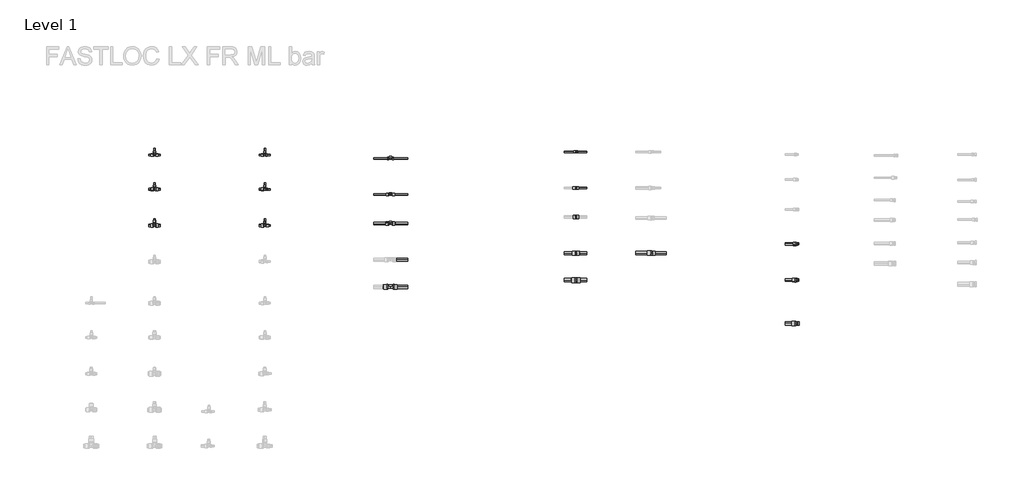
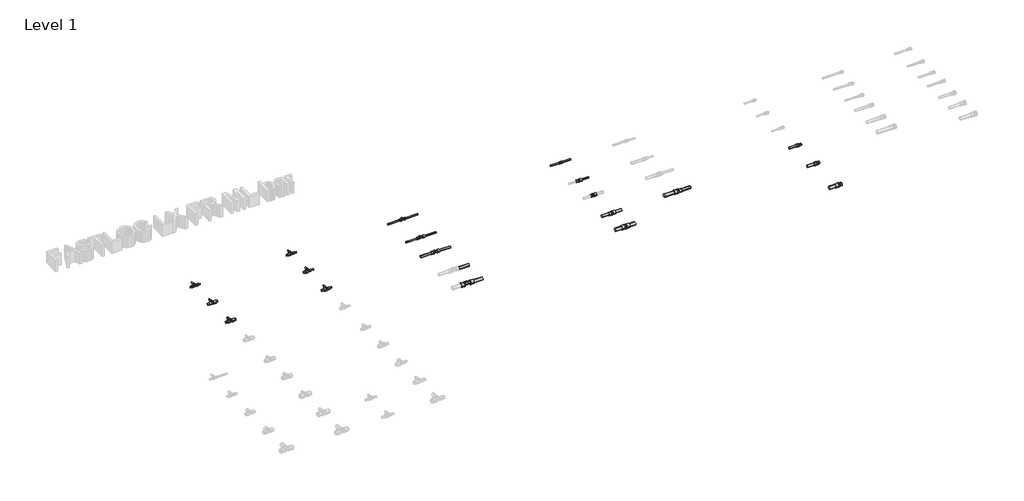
# One storey, part 10 of 78: 38 pipe segments, 19 pipe fittings.
"""IFC4 building model written with IfcOpenShell, lengths in millimetres."""

from ifc_helpers import new_model, si_unit, point, frame, frame_2d, origin, place, context, project, spatial, circle_curve, trimmed, segment, composite_curve, outline, extrude, transform, mapped, element, save
from components import pipe_fitting_027be69e, pipe_fitting_14a26f43, pipe_fitting_5ae7c970, pipe_fitting_e97a97d3, pipe_fitting_d9a56b63, pipe_fitting_8fb58d5f, pipe_fitting_db17a53a, pipe_fitting_3bea6388, pipe_fitting_d92d4423, pipe_fitting_47d0521d, pipe_fitting_29c4d4eb, pipe_fitting_00caae07, pipe_fitting_1d22680d, pipe_fitting_5e3c5755, pipe_fitting_f5731c1c, pipe_fitting_607ccf76, pipe_fitting_a999c26e, pipe_fitting_b01d00d0, pipe_fitting_e8fea69e

model = new_model("IFC4")

# Units and contexts
model_context = context("Model", 3, world=origin())
ifc_project = project(units=[si_unit("LENGTHUNIT", "METRE", prefix="MILLI")], contexts=[model_context])

# Site, building, storey
site = spatial("IfcSite", under=ifc_project)
building = spatial("IfcBuilding", under=site)
storey = spatial("IfcBuildingStorey", under=building, Name="Level 1", Elevation=0.0)

# Pipe fittings
placement = place(None, origin())
pipe_fitting_shape = pipe_fitting_027be69e(model_context)
element("IfcPipeFitting", 1, ObjectType="FASTLOC_Coupling equal LX : FSL C LX FR", at=placement, inside=storey, context=model_context, shape_type="MappedRepresentation", body=[
    mapped(pipe_fitting_shape, transform((5088.3790161, -27105.8821283, 0.0), x_axis=(1.0, 0.0, 0.0), y_axis=(0.0, 1.0, 0.0), z_axis=(0.0, 0.0, 1.0))),
])
pipe_fitting_2_shape = pipe_fitting_14a26f43(model_context)
element("IfcPipeFitting", 2, ObjectType="FASTLOC_Coupling reduced LX : FSL C LX FR", at=placement, inside=storey, context=model_context, shape_type="MappedRepresentation", body=[
    mapped(pipe_fitting_2_shape, transform((5926.6928556, -28225.8821283, 0.0), x_axis=(1.0, 0.0, 0.0), y_axis=(0.0, 1.0, 0.0), z_axis=(0.0, 0.0, 1.0))),
])
pipe_fitting_3_shape = pipe_fitting_5ae7c970(model_context)
element("IfcPipeFitting", 3, ObjectType="FASTLOC_T-piece_LX : FSL T-Piece LX FR", at=placement, inside=storey, context=model_context, shape_type="MappedRepresentation", body=[
    mapped(pipe_fitting_3_shape, transform((426.7498072, -27140.2405791, 0.0), x_axis=(1.0, 0.0, 0.0), y_axis=(0.0, 1.0, 0.0), z_axis=(0.0, 0.0, 1.0))),
])
pipe_fitting_4_shape = pipe_fitting_e97a97d3(model_context)
element("IfcPipeFitting", 4, ObjectType="FASTLOC_T-piece_LX : FSL T-Piece LX FR", at=placement, inside=storey, context=model_context, shape_type="MappedRepresentation", body=[
    mapped(pipe_fitting_4_shape, transform((426.7498072, -27520.2405791, 0.0), x_axis=(1.0, 0.0, 0.0), y_axis=(0.0, 1.0, 0.0), z_axis=(0.0, 0.0, 1.0))),
])
pipe_fitting_5_shape = pipe_fitting_d9a56b63(model_context)
element("IfcPipeFitting", 5, ObjectType="FASTLOC_T-piece_LX : FSL T-Piece LX FR", at=placement, inside=storey, context=model_context, shape_type="MappedRepresentation", body=[
    mapped(pipe_fitting_5_shape, transform((426.7498072, -27920.2405791, 0.0), x_axis=(1.0, 0.0, 0.0), y_axis=(0.0, 1.0, 0.0), z_axis=(0.0, 0.0, 1.0))),
])
pipe_fitting_6_shape = pipe_fitting_8fb58d5f(model_context)
element("IfcPipeFitting", 6, ObjectType="FASTLOC_T-piece_LX : FSL T-Piece LX FR", at=placement, inside=storey, context=model_context, shape_type="MappedRepresentation", body=[
    mapped(pipe_fitting_6_shape, transform((1646.7498072, -27140.2405791, 0.0), x_axis=(1.0, 0.0, 0.0), y_axis=(0.0, 1.0, 0.0), z_axis=(0.0, 0.0, 1.0))),
])
pipe_fitting_7_shape = pipe_fitting_db17a53a(model_context)
element("IfcPipeFitting", 7, ObjectType="FASTLOC_T-piece_LX : FSL T-Piece LX FR", at=placement, inside=storey, context=model_context, shape_type="MappedRepresentation", body=[
    mapped(pipe_fitting_7_shape, transform((1646.7498072, -27520.2405791, 0.0), x_axis=(1.0, 0.0, 0.0), y_axis=(0.0, 1.0, 0.0), z_axis=(0.0, 0.0, 1.0))),
])
pipe_fitting_8_shape = pipe_fitting_3bea6388(model_context)
element("IfcPipeFitting", 8, ObjectType="FASTLOC_T-piece_LX : FSL T-Piece LX FR", at=placement, inside=storey, context=model_context, shape_type="MappedRepresentation", body=[
    mapped(pipe_fitting_8_shape, transform((1646.7498072, -27920.2405791, 0.0), x_axis=(1.0, 0.0, 0.0), y_axis=(0.0, 1.0, 0.0), z_axis=(0.0, 0.0, 1.0))),
])
pipe_fitting_9_shape = pipe_fitting_d92d4423(model_context)
element("IfcPipeFitting", 9, ObjectType="FASTLOC_T-piece internal thread LX : FSL T thread LX FR", at=placement, inside=storey, context=model_context, shape_type="MappedRepresentation", body=[
    mapped(pipe_fitting_9_shape, transform((3036.609585, -27179.8272875, 0.0), x_axis=(1.0, 0.0, 0.0), y_axis=(0.0, 1.0, 0.0), z_axis=(0.0, 0.0, 1.0))),
])
pipe_fitting_10_shape = pipe_fitting_47d0521d(model_context)
element("IfcPipeFitting", 10, ObjectType="FASTLOC_T-piece internal thread LX : FSL T thread LX FR", at=placement, inside=storey, context=model_context, shape_type="MappedRepresentation", body=[
    mapped(pipe_fitting_10_shape, transform((3036.609585, -27579.8272875, 0.0), x_axis=(1.0, 0.0, 0.0), y_axis=(0.0, 1.0, 0.0), z_axis=(0.0, 0.0, 1.0))),
])
pipe_fitting_11_shape = pipe_fitting_29c4d4eb(model_context)
element("IfcPipeFitting", 11, ObjectType="FASTLOC_T-piece internal thread LX : FSL T thread LX FR", at=placement, inside=storey, context=model_context, shape_type="MappedRepresentation", body=[
    mapped(pipe_fitting_11_shape, transform((3036.609585, -27899.8272875, 0.0), x_axis=(1.0, 0.0, 0.0), y_axis=(0.0, 1.0, 0.0), z_axis=(0.0, 0.0, 1.0))),
])
pipe_fitting_12_shape = pipe_fitting_00caae07(model_context)
element("IfcPipeFitting", 12, ObjectType="FASTLOC_T-piece internal thread LX : FSL T thread LX FR", at=placement, inside=storey, context=model_context, shape_type="MappedRepresentation", body=[
    mapped(pipe_fitting_12_shape, transform((3036.609585, -28599.8272875, 0.0), x_axis=(1.0, 0.0, 0.0), y_axis=(0.0, 1.0, 0.0), z_axis=(0.0, 0.0, 1.0))),
])
pipe_fitting_13_shape = pipe_fitting_1d22680d(model_context)
element("IfcPipeFitting", 13, ObjectType="FASTLOC_Coupling equal LX : FSL C LX FR", at=placement, inside=storey, context=model_context, shape_type="MappedRepresentation", body=[
    mapped(pipe_fitting_13_shape, transform((5088.3790161, -27505.8821283, 0.0), x_axis=(1.0, 0.0, 0.0), y_axis=(0.0, 1.0, 0.0), z_axis=(0.0, 0.0, 1.0))),
])
pipe_fitting_14_shape = pipe_fitting_5e3c5755(model_context)
element("IfcPipeFitting", 14, ObjectType="FASTLOC_Coupling equal LX : FSL C LX FR", at=placement, inside=storey, context=model_context, shape_type="MappedRepresentation", body=[
    mapped(pipe_fitting_14_shape, transform((5088.3790161, -27825.8821283, 0.0), x_axis=(1.0, 0.0, 0.0), y_axis=(0.0, 1.0, 0.0), z_axis=(0.0, 0.0, 1.0))),
])
pipe_fitting_15_shape = pipe_fitting_f5731c1c(model_context)
element("IfcPipeFitting", 15, ObjectType="FASTLOC_Coupling equal LX : FSL C LX FR", at=placement, inside=storey, context=model_context, shape_type="MappedRepresentation", body=[
    mapped(pipe_fitting_15_shape, transform((5088.3790161, -28225.8821283, 0.0), x_axis=(1.0, 0.0, 0.0), y_axis=(0.0, 1.0, 0.0), z_axis=(0.0, 0.0, 1.0))),
])
pipe_fitting_16_shape = pipe_fitting_607ccf76(model_context)
element("IfcPipeFitting", 16, ObjectType="FASTLOC_Coupling equal LX : FSL C LX FR", at=placement, inside=storey, context=model_context, shape_type="MappedRepresentation", body=[
    mapped(pipe_fitting_16_shape, transform((5088.3790161, -28525.8821283, 0.0), x_axis=(1.0, 0.0, 0.0), y_axis=(0.0, 1.0, 0.0), z_axis=(0.0, 0.0, 1.0))),
])
pipe_fitting_17_shape = pipe_fitting_a999c26e(model_context)
element("IfcPipeFitting", 17, ObjectType="FASTLOC_Adapter_LX, with external thread : FSL A C external FR", at=placement, inside=storey, context=model_context, shape_type="MappedRepresentation", body=[
    mapped(pipe_fitting_17_shape, transform((7526.8953131, -28124.2068389, 0.0), x_axis=(1.0, 0.0, 0.0), y_axis=(0.0, 1.0, 0.0), z_axis=(0.0, 0.0, 1.0))),
])
pipe_fitting_18_shape = pipe_fitting_b01d00d0(model_context)
element("IfcPipeFitting", 18, ObjectType="FASTLOC_Adapter_LX, with external thread : FSL A C external FR", at=placement, inside=storey, context=model_context, shape_type="MappedRepresentation", body=[
    mapped(pipe_fitting_18_shape, transform((7526.8953131, -28524.2068389, 0.0), x_axis=(1.0, 0.0, 0.0), y_axis=(0.0, 1.0, 0.0), z_axis=(0.0, 0.0, 1.0))),
])
pipe_fitting_19_shape = pipe_fitting_e8fea69e(model_context)
element("IfcPipeFitting", 19, ObjectType="FASTLOC_Adapter_LX, with external thread : FSL A C external FR", at=placement, inside=storey, context=model_context, shape_type="MappedRepresentation", body=[
    mapped(pipe_fitting_19_shape, transform((7526.8953131, -29004.2068389, 0.0), x_axis=(1.0, 0.0, 0.0), y_axis=(0.0, 1.0, 0.0), z_axis=(0.0, 0.0, 1.0))),
])

# Pipe segments
element("IfcPipeSegment", 20, ObjectType="FASTLOC LX ML FR bar", at=placement, inside=storey, context=model_context, shape_type="SweptSolid", body=[
    extrude(outline(composite_curve([segment(trimmed(circle_curve(frame_2d((-27140.2405791, 0.0)), 8.0), [point((-27148.2405791, 0.0))], [point((-27140.2405791, 8.0))], False, "CARTESIAN"), True, "CONTINUOUS"), segment(trimmed(circle_curve(frame_2d((-27140.2405791, 0.0)), 8.0), [point((-27140.2405791, 8.0))], [point((-27132.2405791, 0.0))], False, "CARTESIAN"), True, "CONTINUOUS"), segment(trimmed(circle_curve(frame_2d((-27140.2405791, 0.0)), 8.0), [point((-27132.2405791, 0.0))], [point((-27140.2405791, -8.0))], False, "CARTESIAN"), True, "CONTINUOUS"), segment(trimmed(circle_curve(frame_2d((-27140.2405791, 0.0)), 8.0), [point((-27140.2405791, -8.0))], [point((-27148.2405791, 0.0))], False, "CARTESIAN"), True, "CONTINUOUS")], self_intersect=False)), frame((442.0498072, 0.0, 0.0), z_axis=(1.0, 0.0, 0.0), x_axis=(0.0, 1.0, 0.0)), (0.0, 0.0, 1.0), 46.7),
])
element("IfcPipeSegment", 21, ObjectType="FASTLOC LX ML FR bar", at=placement, inside=storey, context=model_context, shape_type="SweptSolid", body=[
    extrude(outline(composite_curve([segment(trimmed(circle_curve(frame_2d((-27140.2405791, 0.0)), 8.0), [point((-27132.2405791, 0.0))], [point((-27140.2405791, -8.0))], False, "CARTESIAN"), True, "CONTINUOUS"), segment(trimmed(circle_curve(frame_2d((-27140.2405791, 0.0)), 8.0), [point((-27140.2405791, -8.0))], [point((-27148.2405791, 0.0))], False, "CARTESIAN"), True, "CONTINUOUS"), segment(trimmed(circle_curve(frame_2d((-27140.2405791, 0.0)), 8.0), [point((-27148.2405791, 0.0))], [point((-27140.2405791, 8.0))], False, "CARTESIAN"), True, "CONTINUOUS"), segment(trimmed(circle_curve(frame_2d((-27140.2405791, 0.0)), 8.0), [point((-27140.2405791, 8.0))], [point((-27132.2405791, 0.0))], False, "CARTESIAN"), True, "CONTINUOUS")], self_intersect=False)), frame((364.7498072, 0.0, 0.0), z_axis=(1.0, 0.0, 0.0), x_axis=(0.0, 1.0, 0.0)), (0.0, 0.0, 1.0), 46.7),
])
element("IfcPipeSegment", 22, ObjectType="FASTLOC LX ML FR bar", at=placement, inside=storey, context=model_context, shape_type="SweptSolid", body=[
    extrude(outline(composite_curve([segment(trimmed(circle_curve(frame_2d((0.0, 426.7498072)), 8.0), [point((0.0, 434.7498072))], [point((8.0, 426.7498072))], False, "CARTESIAN"), True, "CONTINUOUS"), segment(trimmed(circle_curve(frame_2d((0.0, 426.7498072)), 8.0), [point((8.0, 426.7498072))], [point((0.0, 418.7498072))], False, "CARTESIAN"), True, "CONTINUOUS"), segment(trimmed(circle_curve(frame_2d((0.0, 426.7498072)), 8.0), [point((0.0, 418.7498072))], [point((-8.0, 426.7498072))], False, "CARTESIAN"), True, "CONTINUOUS"), segment(trimmed(circle_curve(frame_2d((0.0, 426.7498072)), 8.0), [point((-8.0, 426.7498072))], [point((0.0, 434.7498072))], False, "CARTESIAN"), True, "CONTINUOUS")], self_intersect=False)), frame((0.0, -27113.9405791, 0.0), z_axis=(0.0, 1.0, 0.0), x_axis=(0.0, 0.0, 1.0)), (0.0, 0.0, 1.0), 46.0),
])
element("IfcPipeSegment", 23, ObjectType="FASTLOC LX ML FR bar", at=placement, inside=storey, context=model_context, shape_type="SweptSolid", body=[
    extrude(outline(composite_curve([segment(trimmed(circle_curve(frame_2d((-27520.2405791, 0.0)), 12.5), [point((-27532.7405791, 0.0))], [point((-27520.2405791, 12.5))], False, "CARTESIAN"), True, "CONTINUOUS"), segment(trimmed(circle_curve(frame_2d((-27520.2405791, 0.0)), 12.5), [point((-27520.2405791, 12.5))], [point((-27507.7405791, 0.0))], False, "CARTESIAN"), True, "CONTINUOUS"), segment(trimmed(circle_curve(frame_2d((-27520.2405791, 0.0)), 12.5), [point((-27507.7405791, 0.0))], [point((-27520.2405791, -12.5))], False, "CARTESIAN"), True, "CONTINUOUS"), segment(trimmed(circle_curve(frame_2d((-27520.2405791, 0.0)), 12.5), [point((-27520.2405791, -12.5))], [point((-27532.7405791, 0.0))], False, "CARTESIAN"), True, "CONTINUOUS")], self_intersect=False)), frame((442.9498072, 0.0, 0.0), z_axis=(1.0, 0.0, 0.0), x_axis=(0.0, 1.0, 0.0)), (0.0, 0.0, 1.0), 45.8),
])
element("IfcPipeSegment", 24, ObjectType="FASTLOC LX ML FR bar", at=placement, inside=storey, context=model_context, shape_type="SweptSolid", body=[
    extrude(outline(composite_curve([segment(trimmed(circle_curve(frame_2d((-27520.2405791, 0.0)), 12.5), [point((-27507.7405791, 0.0))], [point((-27520.2405791, -12.5))], False, "CARTESIAN"), True, "CONTINUOUS"), segment(trimmed(circle_curve(frame_2d((-27520.2405791, 0.0)), 12.5), [point((-27520.2405791, -12.5))], [point((-27532.7405791, 0.0))], False, "CARTESIAN"), True, "CONTINUOUS"), segment(trimmed(circle_curve(frame_2d((-27520.2405791, 0.0)), 12.5), [point((-27532.7405791, 0.0))], [point((-27520.2405791, 12.5))], False, "CARTESIAN"), True, "CONTINUOUS"), segment(trimmed(circle_curve(frame_2d((-27520.2405791, 0.0)), 12.5), [point((-27520.2405791, 12.5))], [point((-27507.7405791, 0.0))], False, "CARTESIAN"), True, "CONTINUOUS")], self_intersect=False)), frame((364.7498072, 0.0, 0.0), z_axis=(1.0, 0.0, 0.0), x_axis=(0.0, 1.0, 0.0)), (0.0, 0.0, 1.0), 45.8),
])
element("IfcPipeSegment", 25, ObjectType="FASTLOC LX ML FR bar", at=placement, inside=storey, context=model_context, shape_type="SweptSolid", body=[
    extrude(outline(composite_curve([segment(trimmed(circle_curve(frame_2d((0.0, 426.7498072)), 8.0), [point((0.0, 434.7498072))], [point((8.0, 426.7498072))], False, "CARTESIAN"), True, "CONTINUOUS"), segment(trimmed(circle_curve(frame_2d((0.0, 426.7498072)), 8.0), [point((8.0, 426.7498072))], [point((0.0, 418.7498072))], False, "CARTESIAN"), True, "CONTINUOUS"), segment(trimmed(circle_curve(frame_2d((0.0, 426.7498072)), 8.0), [point((0.0, 418.7498072))], [point((-8.0, 426.7498072))], False, "CARTESIAN"), True, "CONTINUOUS"), segment(trimmed(circle_curve(frame_2d((0.0, 426.7498072)), 8.0), [point((-8.0, 426.7498072))], [point((0.0, 434.7498072))], False, "CARTESIAN"), True, "CONTINUOUS")], self_intersect=False)), frame((0.0, -27491.2405791, 0.0), z_axis=(0.0, 1.0, 0.0), x_axis=(0.0, 0.0, 1.0)), (0.0, 0.0, 1.0), 43.3),
])
element("IfcPipeSegment", 26, ObjectType="FASTLOC LX ML FR bar", at=placement, inside=storey, context=model_context, shape_type="SweptSolid", body=[
    extrude(outline(composite_curve([segment(trimmed(circle_curve(frame_2d((-27920.2405791, 0.0)), 12.5), [point((-27932.7405791, 0.0))], [point((-27920.2405791, 12.5))], False, "CARTESIAN"), True, "CONTINUOUS"), segment(trimmed(circle_curve(frame_2d((-27920.2405791, 0.0)), 12.5), [point((-27920.2405791, 12.5))], [point((-27907.7405791, 0.0))], False, "CARTESIAN"), True, "CONTINUOUS"), segment(trimmed(circle_curve(frame_2d((-27920.2405791, 0.0)), 12.5), [point((-27907.7405791, 0.0))], [point((-27920.2405791, -12.5))], False, "CARTESIAN"), True, "CONTINUOUS"), segment(trimmed(circle_curve(frame_2d((-27920.2405791, 0.0)), 12.5), [point((-27920.2405791, -12.5))], [point((-27932.7405791, 0.0))], False, "CARTESIAN"), True, "CONTINUOUS")], self_intersect=False)), frame((444.8498072, 0.0, 0.0), z_axis=(1.0, 0.0, 0.0), x_axis=(0.0, 1.0, 0.0)), (0.0, 0.0, 1.0), 43.9),
])
element("IfcPipeSegment", 27, ObjectType="FASTLOC LX ML FR bar", at=placement, inside=storey, context=model_context, shape_type="SweptSolid", body=[
    extrude(outline(composite_curve([segment(trimmed(circle_curve(frame_2d((-27920.2405791, 0.0)), 12.5), [point((-27907.7405791, 0.0))], [point((-27920.2405791, -12.5))], False, "CARTESIAN"), True, "CONTINUOUS"), segment(trimmed(circle_curve(frame_2d((-27920.2405791, 0.0)), 12.5), [point((-27920.2405791, -12.5))], [point((-27932.7405791, 0.0))], False, "CARTESIAN"), True, "CONTINUOUS"), segment(trimmed(circle_curve(frame_2d((-27920.2405791, 0.0)), 12.5), [point((-27932.7405791, 0.0))], [point((-27920.2405791, 12.5))], False, "CARTESIAN"), True, "CONTINUOUS"), segment(trimmed(circle_curve(frame_2d((-27920.2405791, 0.0)), 12.5), [point((-27920.2405791, 12.5))], [point((-27907.7405791, 0.0))], False, "CARTESIAN"), True, "CONTINUOUS")], self_intersect=False)), frame((364.7498072, 0.0, 0.0), z_axis=(1.0, 0.0, 0.0), x_axis=(0.0, 1.0, 0.0)), (0.0, 0.0, 1.0), 43.9),
])
element("IfcPipeSegment", 28, ObjectType="FASTLOC LX ML FR bar", at=placement, inside=storey, context=model_context, shape_type="SweptSolid", body=[
    extrude(outline(composite_curve([segment(trimmed(circle_curve(frame_2d((0.0, 426.7498072)), 8.0), [point((0.0, 434.7498072))], [point((8.0, 426.7498072))], False, "CARTESIAN"), True, "CONTINUOUS"), segment(trimmed(circle_curve(frame_2d((0.0, 426.7498072)), 8.0), [point((8.0, 426.7498072))], [point((0.0, 418.7498072))], False, "CARTESIAN"), True, "CONTINUOUS"), segment(trimmed(circle_curve(frame_2d((0.0, 426.7498072)), 8.0), [point((0.0, 418.7498072))], [point((-8.0, 426.7498072))], False, "CARTESIAN"), True, "CONTINUOUS"), segment(trimmed(circle_curve(frame_2d((0.0, 426.7498072)), 8.0), [point((-8.0, 426.7498072))], [point((0.0, 434.7498072))], False, "CARTESIAN"), True, "CONTINUOUS")], self_intersect=False)), frame((0.0, -27891.0405791, 0.0), z_axis=(0.0, 1.0, 0.0), x_axis=(0.0, 0.0, 1.0)), (0.0, 0.0, 1.0), 43.1),
])
element("IfcPipeSegment", 29, ObjectType="FASTLOC LX ML FR bar", at=placement, inside=storey, context=model_context, shape_type="SweptSolid", body=[
    extrude(outline(composite_curve([segment(trimmed(circle_curve(frame_2d((-27140.2405791, 0.0)), 8.0), [point((-27148.2405791, 0.0))], [point((-27140.2405791, 8.0))], False, "CARTESIAN"), True, "CONTINUOUS"), segment(trimmed(circle_curve(frame_2d((-27140.2405791, 0.0)), 8.0), [point((-27140.2405791, 8.0))], [point((-27132.2405791, 0.0))], False, "CARTESIAN"), True, "CONTINUOUS"), segment(trimmed(circle_curve(frame_2d((-27140.2405791, 0.0)), 8.0), [point((-27132.2405791, 0.0))], [point((-27140.2405791, -8.0))], False, "CARTESIAN"), True, "CONTINUOUS"), segment(trimmed(circle_curve(frame_2d((-27140.2405791, 0.0)), 8.0), [point((-27140.2405791, -8.0))], [point((-27148.2405791, 0.0))], False, "CARTESIAN"), True, "CONTINUOUS")], self_intersect=False)), frame((1661.8498072, 0.0, 0.0), z_axis=(1.0, 0.0, 0.0), x_axis=(0.0, 1.0, 0.0)), (0.0, 0.0, 1.0), 46.9),
])
element("IfcPipeSegment", 30, ObjectType="FASTLOC LX ML FR bar", at=placement, inside=storey, context=model_context, shape_type="SweptSolid", body=[
    extrude(outline(composite_curve([segment(trimmed(circle_curve(frame_2d((-27140.2405791, 0.0)), 8.0), [point((-27132.2405791, 0.0))], [point((-27140.2405791, -8.0))], False, "CARTESIAN"), True, "CONTINUOUS"), segment(trimmed(circle_curve(frame_2d((-27140.2405791, 0.0)), 8.0), [point((-27140.2405791, -8.0))], [point((-27148.2405791, 0.0))], False, "CARTESIAN"), True, "CONTINUOUS"), segment(trimmed(circle_curve(frame_2d((-27140.2405791, 0.0)), 8.0), [point((-27148.2405791, 0.0))], [point((-27140.2405791, 8.0))], False, "CARTESIAN"), True, "CONTINUOUS"), segment(trimmed(circle_curve(frame_2d((-27140.2405791, 0.0)), 8.0), [point((-27140.2405791, 8.0))], [point((-27132.2405791, 0.0))], False, "CARTESIAN"), True, "CONTINUOUS")], self_intersect=False)), frame((1584.7498072, 0.0, 0.0), z_axis=(1.0, 0.0, 0.0), x_axis=(0.0, 1.0, 0.0)), (0.0, 0.0, 1.0), 46.5),
])
element("IfcPipeSegment", 31, ObjectType="FASTLOC LX ML FR bar", at=placement, inside=storey, context=model_context, shape_type="SweptSolid", body=[
    extrude(outline(composite_curve([segment(trimmed(circle_curve(frame_2d((0.0, 1646.7498072)), 8.0), [point((0.0, 1654.7498072))], [point((8.0, 1646.7498072))], False, "CARTESIAN"), True, "CONTINUOUS"), segment(trimmed(circle_curve(frame_2d((0.0, 1646.7498072)), 8.0), [point((8.0, 1646.7498072))], [point((0.0, 1638.7498072))], False, "CARTESIAN"), True, "CONTINUOUS"), segment(trimmed(circle_curve(frame_2d((0.0, 1646.7498072)), 8.0), [point((0.0, 1638.7498072))], [point((-8.0, 1646.7498072))], False, "CARTESIAN"), True, "CONTINUOUS"), segment(trimmed(circle_curve(frame_2d((0.0, 1646.7498072)), 8.0), [point((-8.0, 1646.7498072))], [point((0.0, 1654.7498072))], False, "CARTESIAN"), True, "CONTINUOUS")], self_intersect=False)), frame((0.0, -27113.8405791, 0.0), z_axis=(0.0, 1.0, 0.0), x_axis=(0.0, 0.0, 1.0)), (0.0, 0.0, 1.0), 45.9),
])
element("IfcPipeSegment", 32, ObjectType="FASTLOC LX ML FR bar", at=placement, inside=storey, context=model_context, shape_type="SweptSolid", body=[
    extrude(outline(composite_curve([segment(trimmed(circle_curve(frame_2d((-27520.2405791, 0.0)), 8.0), [point((-27528.2405791, 0.0))], [point((-27520.2405791, 8.0))], False, "CARTESIAN"), True, "CONTINUOUS"), segment(trimmed(circle_curve(frame_2d((-27520.2405791, 0.0)), 8.0), [point((-27520.2405791, 8.0))], [point((-27512.2405791, 0.0))], False, "CARTESIAN"), True, "CONTINUOUS"), segment(trimmed(circle_curve(frame_2d((-27520.2405791, 0.0)), 8.0), [point((-27512.2405791, 0.0))], [point((-27520.2405791, -8.0))], False, "CARTESIAN"), True, "CONTINUOUS"), segment(trimmed(circle_curve(frame_2d((-27520.2405791, 0.0)), 8.0), [point((-27520.2405791, -8.0))], [point((-27528.2405791, 0.0))], False, "CARTESIAN"), True, "CONTINUOUS")], self_intersect=False)), frame((1661.8498072, 0.0, 0.0), z_axis=(1.0, 0.0, 0.0), x_axis=(0.0, 1.0, 0.0)), (0.0, 0.0, 1.0), 46.9),
])
element("IfcPipeSegment", 33, ObjectType="FASTLOC LX ML FR bar", at=placement, inside=storey, context=model_context, shape_type="SweptSolid", body=[
    extrude(outline(composite_curve([segment(trimmed(circle_curve(frame_2d((-27520.2405791, 0.0)), 12.5), [point((-27507.7405791, 0.0))], [point((-27520.2405791, -12.5))], False, "CARTESIAN"), True, "CONTINUOUS"), segment(trimmed(circle_curve(frame_2d((-27520.2405791, 0.0)), 12.5), [point((-27520.2405791, -12.5))], [point((-27532.7405791, 0.0))], False, "CARTESIAN"), True, "CONTINUOUS"), segment(trimmed(circle_curve(frame_2d((-27520.2405791, 0.0)), 12.5), [point((-27532.7405791, 0.0))], [point((-27520.2405791, 12.5))], False, "CARTESIAN"), True, "CONTINUOUS"), segment(trimmed(circle_curve(frame_2d((-27520.2405791, 0.0)), 12.5), [point((-27520.2405791, 12.5))], [point((-27507.7405791, 0.0))], False, "CARTESIAN"), True, "CONTINUOUS")], self_intersect=False)), frame((1584.7498072, 0.0, 0.0), z_axis=(1.0, 0.0, 0.0), x_axis=(0.0, 1.0, 0.0)), (0.0, 0.0, 1.0), 45.6),
])
element("IfcPipeSegment", 34, ObjectType="FASTLOC LX ML FR bar", at=placement, inside=storey, context=model_context, shape_type="SweptSolid", body=[
    extrude(outline(composite_curve([segment(trimmed(circle_curve(frame_2d((0.0, 1646.7498072)), 8.0), [point((0.0, 1654.7498072))], [point((8.0, 1646.7498072))], False, "CARTESIAN"), True, "CONTINUOUS"), segment(trimmed(circle_curve(frame_2d((0.0, 1646.7498072)), 8.0), [point((8.0, 1646.7498072))], [point((0.0, 1638.7498072))], False, "CARTESIAN"), True, "CONTINUOUS"), segment(trimmed(circle_curve(frame_2d((0.0, 1646.7498072)), 8.0), [point((0.0, 1638.7498072))], [point((-8.0, 1646.7498072))], False, "CARTESIAN"), True, "CONTINUOUS"), segment(trimmed(circle_curve(frame_2d((0.0, 1646.7498072)), 8.0), [point((-8.0, 1646.7498072))], [point((0.0, 1654.7498072))], False, "CARTESIAN"), True, "CONTINUOUS")], self_intersect=False)), frame((0.0, -27491.1405791, 0.0), z_axis=(0.0, 1.0, 0.0), x_axis=(0.0, 0.0, 1.0)), (0.0, 0.0, 1.0), 43.2),
])
element("IfcPipeSegment", 35, ObjectType="FASTLOC LX ML FR bar", at=placement, inside=storey, context=model_context, shape_type="SweptSolid", body=[
    extrude(outline(composite_curve([segment(trimmed(circle_curve(frame_2d((-27920.2405791, 0.0)), 8.0), [point((-27928.2405791, 0.0))], [point((-27920.2405791, 8.0))], False, "CARTESIAN"), True, "CONTINUOUS"), segment(trimmed(circle_curve(frame_2d((-27920.2405791, 0.0)), 8.0), [point((-27920.2405791, 8.0))], [point((-27912.2405791, 0.0))], False, "CARTESIAN"), True, "CONTINUOUS"), segment(trimmed(circle_curve(frame_2d((-27920.2405791, 0.0)), 8.0), [point((-27912.2405791, 0.0))], [point((-27920.2405791, -8.0))], False, "CARTESIAN"), True, "CONTINUOUS"), segment(trimmed(circle_curve(frame_2d((-27920.2405791, 0.0)), 8.0), [point((-27920.2405791, -8.0))], [point((-27928.2405791, 0.0))], False, "CARTESIAN"), True, "CONTINUOUS")], self_intersect=False)), frame((1662.2498072, 0.0, 0.0), z_axis=(1.0, 0.0, 0.0), x_axis=(0.0, 1.0, 0.0)), (0.0, 0.0, 1.0), 46.5),
])
element("IfcPipeSegment", 36, ObjectType="FASTLOC LX ML FR bar", at=placement, inside=storey, context=model_context, shape_type="SweptSolid", body=[
    extrude(outline(composite_curve([segment(trimmed(circle_curve(frame_2d((-27920.2405791, 0.0)), 12.5), [point((-27907.7405791, 0.0))], [point((-27920.2405791, -12.5))], False, "CARTESIAN"), True, "CONTINUOUS"), segment(trimmed(circle_curve(frame_2d((-27920.2405791, 0.0)), 12.5), [point((-27920.2405791, -12.5))], [point((-27932.7405791, 0.0))], False, "CARTESIAN"), True, "CONTINUOUS"), segment(trimmed(circle_curve(frame_2d((-27920.2405791, 0.0)), 12.5), [point((-27932.7405791, 0.0))], [point((-27920.2405791, 12.5))], False, "CARTESIAN"), True, "CONTINUOUS"), segment(trimmed(circle_curve(frame_2d((-27920.2405791, 0.0)), 12.5), [point((-27920.2405791, 12.5))], [point((-27907.7405791, 0.0))], False, "CARTESIAN"), True, "CONTINUOUS")], self_intersect=False)), frame((1584.7498072, 0.0, 0.0), z_axis=(1.0, 0.0, 0.0), x_axis=(0.0, 1.0, 0.0)), (0.0, 0.0, 1.0), 45.6),
])
element("IfcPipeSegment", 37, ObjectType="FASTLOC LX ML FR bar", at=placement, inside=storey, context=model_context, shape_type="SweptSolid", body=[
    extrude(outline(composite_curve([segment(trimmed(circle_curve(frame_2d((0.0, 1646.7498072)), 8.0), [point((0.0, 1654.7498072))], [point((8.0, 1646.7498072))], False, "CARTESIAN"), True, "CONTINUOUS"), segment(trimmed(circle_curve(frame_2d((0.0, 1646.7498072)), 8.0), [point((8.0, 1646.7498072))], [point((0.0, 1638.7498072))], False, "CARTESIAN"), True, "CONTINUOUS"), segment(trimmed(circle_curve(frame_2d((0.0, 1646.7498072)), 8.0), [point((0.0, 1638.7498072))], [point((-8.0, 1646.7498072))], False, "CARTESIAN"), True, "CONTINUOUS"), segment(trimmed(circle_curve(frame_2d((0.0, 1646.7498072)), 8.0), [point((-8.0, 1646.7498072))], [point((0.0, 1654.7498072))], False, "CARTESIAN"), True, "CONTINUOUS")], self_intersect=False)), frame((0.0, -27891.1405791, 0.0), z_axis=(0.0, 1.0, 0.0), x_axis=(0.0, 0.0, 1.0)), (0.0, 0.0, 1.0), 43.2),
])
element("IfcPipeSegment", 38, ObjectType="FASTLOC LX ML FR bar", at=placement, inside=storey, context=model_context, shape_type="SweptSolid", body=[
    extrude(outline(composite_curve([segment(trimmed(circle_curve(frame_2d((-27179.8272875, 0.0)), 8.0), [point((-27187.8272875, 0.0))], [point((-27179.8272875, 8.0))], False, "CARTESIAN"), True, "CONTINUOUS"), segment(trimmed(circle_curve(frame_2d((-27179.8272875, 0.0)), 8.0), [point((-27179.8272875, 8.0))], [point((-27171.8272875, 0.0))], False, "CARTESIAN"), True, "CONTINUOUS"), segment(trimmed(circle_curve(frame_2d((-27179.8272875, 0.0)), 8.0), [point((-27171.8272875, 0.0))], [point((-27179.8272875, -8.0))], False, "CARTESIAN"), True, "CONTINUOUS"), segment(trimmed(circle_curve(frame_2d((-27179.8272875, 0.0)), 8.0), [point((-27179.8272875, -8.0))], [point((-27187.8272875, 0.0))], False, "CARTESIAN"), True, "CONTINUOUS")], self_intersect=False)), frame((3058.609585, 0.0, 0.0), z_axis=(1.0, 0.0, 0.0), x_axis=(0.0, 1.0, 0.0)), (0.0, 0.0, 1.0), 170.0),
])
element("IfcPipeSegment", 39, ObjectType="FASTLOC LX ML FR bar", at=placement, inside=storey, context=model_context, shape_type="SweptSolid", body=[
    extrude(outline(composite_curve([segment(trimmed(circle_curve(frame_2d((-27179.8272875, 0.0)), 8.0), [point((-27171.8272875, 0.0))], [point((-27179.8272875, -8.0))], False, "CARTESIAN"), True, "CONTINUOUS"), segment(trimmed(circle_curve(frame_2d((-27179.8272875, 0.0)), 8.0), [point((-27179.8272875, -8.0))], [point((-27187.8272875, 0.0))], False, "CARTESIAN"), True, "CONTINUOUS"), segment(trimmed(circle_curve(frame_2d((-27179.8272875, 0.0)), 8.0), [point((-27187.8272875, 0.0))], [point((-27179.8272875, 8.0))], False, "CARTESIAN"), True, "CONTINUOUS"), segment(trimmed(circle_curve(frame_2d((-27179.8272875, 0.0)), 8.0), [point((-27179.8272875, 8.0))], [point((-27171.8272875, 0.0))], False, "CARTESIAN"), True, "CONTINUOUS")], self_intersect=False)), frame((2849.609585, 0.0, 0.0), z_axis=(1.0, 0.0, 0.0), x_axis=(0.0, 1.0, 0.0)), (0.0, 0.0, 1.0), 165.0),
])
element("IfcPipeSegment", 40, ObjectType="FASTLOC LX ML FR bar", at=placement, inside=storey, context=model_context, shape_type="SweptSolid", body=[
    extrude(outline(composite_curve([segment(trimmed(circle_curve(frame_2d((-27579.8272875, 0.0)), 8.0), [point((-27587.8272875, 0.0))], [point((-27579.8272875, 8.0))], False, "CARTESIAN"), True, "CONTINUOUS"), segment(trimmed(circle_curve(frame_2d((-27579.8272875, 0.0)), 8.0), [point((-27579.8272875, 8.0))], [point((-27571.8272875, 0.0))], False, "CARTESIAN"), True, "CONTINUOUS"), segment(trimmed(circle_curve(frame_2d((-27579.8272875, 0.0)), 8.0), [point((-27571.8272875, 0.0))], [point((-27579.8272875, -8.0))], False, "CARTESIAN"), True, "CONTINUOUS"), segment(trimmed(circle_curve(frame_2d((-27579.8272875, 0.0)), 8.0), [point((-27579.8272875, -8.0))], [point((-27587.8272875, 0.0))], False, "CARTESIAN"), True, "CONTINUOUS")], self_intersect=False)), frame((3059.109585, 0.0, 0.0), z_axis=(1.0, 0.0, 0.0), x_axis=(0.0, 1.0, 0.0)), (0.0, 0.0, 1.0), 169.5),
])
element("IfcPipeSegment", 41, ObjectType="FASTLOC LX ML FR bar", at=placement, inside=storey, context=model_context, shape_type="SweptSolid", body=[
    extrude(outline(composite_curve([segment(trimmed(circle_curve(frame_2d((-27579.8272875, 0.0)), 8.0), [point((-27571.8272875, 0.0))], [point((-27579.8272875, -8.0))], False, "CARTESIAN"), True, "CONTINUOUS"), segment(trimmed(circle_curve(frame_2d((-27579.8272875, 0.0)), 8.0), [point((-27579.8272875, -8.0))], [point((-27587.8272875, 0.0))], False, "CARTESIAN"), True, "CONTINUOUS"), segment(trimmed(circle_curve(frame_2d((-27579.8272875, 0.0)), 8.0), [point((-27587.8272875, 0.0))], [point((-27579.8272875, 8.0))], False, "CARTESIAN"), True, "CONTINUOUS"), segment(trimmed(circle_curve(frame_2d((-27579.8272875, 0.0)), 8.0), [point((-27579.8272875, 8.0))], [point((-27571.8272875, 0.0))], False, "CARTESIAN"), True, "CONTINUOUS")], self_intersect=False)), frame((2849.609585, 0.0, 0.0), z_axis=(1.0, 0.0, 0.0), x_axis=(0.0, 1.0, 0.0)), (0.0, 0.0, 1.0), 164.5),
])
element("IfcPipeSegment", 42, ObjectType="FASTLOC LX ML FR bar", at=placement, inside=storey, context=model_context, shape_type="SweptSolid", body=[
    extrude(outline(composite_curve([segment(trimmed(circle_curve(frame_2d((-27899.8272875, 0.0)), 12.5), [point((-27912.3272875, 0.0))], [point((-27899.8272875, 12.5))], False, "CARTESIAN"), True, "CONTINUOUS"), segment(trimmed(circle_curve(frame_2d((-27899.8272875, 0.0)), 12.5), [point((-27899.8272875, 12.5))], [point((-27887.3272875, 0.0))], False, "CARTESIAN"), True, "CONTINUOUS"), segment(trimmed(circle_curve(frame_2d((-27899.8272875, 0.0)), 12.5), [point((-27887.3272875, 0.0))], [point((-27899.8272875, -12.5))], False, "CARTESIAN"), True, "CONTINUOUS"), segment(trimmed(circle_curve(frame_2d((-27899.8272875, 0.0)), 12.5), [point((-27899.8272875, -12.5))], [point((-27912.3272875, 0.0))], False, "CARTESIAN"), True, "CONTINUOUS")], self_intersect=False)), frame((3063.309585, 0.0, 0.0), z_axis=(1.0, 0.0, 0.0), x_axis=(0.0, 1.0, 0.0)), (0.0, 0.0, 1.0), 165.3),
])
element("IfcPipeSegment", 43, ObjectType="FASTLOC LX ML FR bar", at=placement, inside=storey, context=model_context, shape_type="SweptSolid", body=[
    extrude(outline(composite_curve([segment(trimmed(circle_curve(frame_2d((-27899.8272875, 0.0)), 12.5), [point((-27887.3272875, 0.0))], [point((-27899.8272875, -12.5))], False, "CARTESIAN"), True, "CONTINUOUS"), segment(trimmed(circle_curve(frame_2d((-27899.8272875, 0.0)), 12.5), [point((-27899.8272875, -12.5))], [point((-27912.3272875, 0.0))], False, "CARTESIAN"), True, "CONTINUOUS"), segment(trimmed(circle_curve(frame_2d((-27899.8272875, 0.0)), 12.5), [point((-27912.3272875, 0.0))], [point((-27899.8272875, 12.5))], False, "CARTESIAN"), True, "CONTINUOUS"), segment(trimmed(circle_curve(frame_2d((-27899.8272875, 0.0)), 12.5), [point((-27899.8272875, 12.5))], [point((-27887.3272875, 0.0))], False, "CARTESIAN"), True, "CONTINUOUS")], self_intersect=False)), frame((2849.609585, 0.0, 0.0), z_axis=(1.0, 0.0, 0.0), x_axis=(0.0, 1.0, 0.0)), (0.0, 0.0, 1.0), 160.3),
])
element("IfcPipeSegment", 44, ObjectType="FASTLOC LX ML FR bar", at=placement, inside=storey, context=model_context, shape_type="SweptSolid", body=[
    extrude(outline(composite_curve([segment(trimmed(circle_curve(frame_2d((-28299.8272875, 0.0)), 16.0), [point((-28315.8272875, 0.0))], [point((-28299.8272875, 16.0))], False, "CARTESIAN"), True, "CONTINUOUS"), segment(trimmed(circle_curve(frame_2d((-28299.8272875, 0.0)), 16.0), [point((-28299.8272875, 16.0))], [point((-28283.8272875, 0.0))], False, "CARTESIAN"), True, "CONTINUOUS"), segment(trimmed(circle_curve(frame_2d((-28299.8272875, 0.0)), 16.0), [point((-28283.8272875, 0.0))], [point((-28299.8272875, -16.0))], False, "CARTESIAN"), True, "CONTINUOUS"), segment(trimmed(circle_curve(frame_2d((-28299.8272875, 0.0)), 16.0), [point((-28299.8272875, -16.0))], [point((-28315.8272875, 0.0))], False, "CARTESIAN"), True, "CONTINUOUS")], self_intersect=False)), frame((3069.609585, 0.0, 0.0), z_axis=(1.0, 0.0, 0.0), x_axis=(0.0, 1.0, 0.0)), (0.0, 0.0, 1.0), 159.0),
])
element("IfcPipeSegment", 45, ObjectType="FASTLOC LX ML FR bar", at=placement, inside=storey, context=model_context, shape_type="SweptSolid", body=[
    extrude(outline(composite_curve([segment(trimmed(circle_curve(frame_2d((-28599.8272875, 0.0)), 20.0), [point((-28619.8272875, 0.0))], [point((-28599.8272875, 20.0))], False, "CARTESIAN"), True, "CONTINUOUS"), segment(trimmed(circle_curve(frame_2d((-28599.8272875, 0.0)), 20.0), [point((-28599.8272875, 20.0))], [point((-28579.8272875, 0.0))], False, "CARTESIAN"), True, "CONTINUOUS"), segment(trimmed(circle_curve(frame_2d((-28599.8272875, 0.0)), 20.0), [point((-28579.8272875, 0.0))], [point((-28599.8272875, -20.0))], False, "CARTESIAN"), True, "CONTINUOUS"), segment(trimmed(circle_curve(frame_2d((-28599.8272875, 0.0)), 20.0), [point((-28599.8272875, -20.0))], [point((-28619.8272875, 0.0))], False, "CARTESIAN"), True, "CONTINUOUS")], self_intersect=False)), frame((3077.909585, 0.0, 0.0), z_axis=(1.0, 0.0, 0.0), x_axis=(0.0, 1.0, 0.0)), (0.0, 0.0, 1.0), 150.7),
])
element("IfcPipeSegment", 46, ObjectType="FASTLOC LX ML FR bar", at=placement, inside=storey, context=model_context, shape_type="SweptSolid", body=[
    extrude(outline(composite_curve([segment(trimmed(circle_curve(frame_2d((-27105.8821283, 0.0)), 8.0), [point((-27113.8821283, 0.0))], [point((-27105.8821283, 8.0))], False, "CARTESIAN"), True, "CONTINUOUS"), segment(trimmed(circle_curve(frame_2d((-27105.8821283, 0.0)), 8.0), [point((-27105.8821283, 8.0))], [point((-27097.8821283, 0.0))], False, "CARTESIAN"), True, "CONTINUOUS"), segment(trimmed(circle_curve(frame_2d((-27105.8821283, 0.0)), 8.0), [point((-27097.8821283, 0.0))], [point((-27105.8821283, -8.0))], False, "CARTESIAN"), True, "CONTINUOUS"), segment(trimmed(circle_curve(frame_2d((-27105.8821283, 0.0)), 8.0), [point((-27105.8821283, -8.0))], [point((-27113.8821283, 0.0))], False, "CARTESIAN"), True, "CONTINUOUS")], self_intersect=False)), frame((5095.5790161, 0.0, 0.0), z_axis=(1.0, 0.0, 0.0), x_axis=(0.0, 1.0, 0.0)), (0.0, 0.0, 1.0), 115.0),
])
element("IfcPipeSegment", 47, ObjectType="FASTLOC LX ML FR bar", at=placement, inside=storey, context=model_context, shape_type="SweptSolid", body=[
    extrude(outline(composite_curve([segment(trimmed(circle_curve(frame_2d((-27105.8821283, 0.0)), 8.0), [point((-27097.8821283, 0.0))], [point((-27105.8821283, -8.0))], False, "CARTESIAN"), True, "CONTINUOUS"), segment(trimmed(circle_curve(frame_2d((-27105.8821283, 0.0)), 8.0), [point((-27105.8821283, -8.0))], [point((-27113.8821283, 0.0))], False, "CARTESIAN"), True, "CONTINUOUS"), segment(trimmed(circle_curve(frame_2d((-27105.8821283, 0.0)), 8.0), [point((-27113.8821283, 0.0))], [point((-27105.8821283, 8.0))], False, "CARTESIAN"), True, "CONTINUOUS"), segment(trimmed(circle_curve(frame_2d((-27105.8821283, 0.0)), 8.0), [point((-27105.8821283, 8.0))], [point((-27097.8821283, 0.0))], False, "CARTESIAN"), True, "CONTINUOUS")], self_intersect=False)), frame((4961.1790161, 0.0, 0.0), z_axis=(1.0, 0.0, 0.0), x_axis=(0.0, 1.0, 0.0)), (0.0, 0.0, 1.0), 120.0),
])
element("IfcPipeSegment", 48, ObjectType="FASTLOC LX ML FR bar", at=placement, inside=storey, context=model_context, shape_type="SweptSolid", body=[
    extrude(outline(composite_curve([segment(trimmed(circle_curve(frame_2d((-27505.8821283, 0.0)), 8.0), [point((-27513.8821283, 0.0))], [point((-27505.8821283, 8.0))], False, "CARTESIAN"), True, "CONTINUOUS"), segment(trimmed(circle_curve(frame_2d((-27505.8821283, 0.0)), 8.0), [point((-27505.8821283, 8.0))], [point((-27497.8821283, 0.0))], False, "CARTESIAN"), True, "CONTINUOUS"), segment(trimmed(circle_curve(frame_2d((-27505.8821283, 0.0)), 8.0), [point((-27497.8821283, 0.0))], [point((-27505.8821283, -8.0))], False, "CARTESIAN"), True, "CONTINUOUS"), segment(trimmed(circle_curve(frame_2d((-27505.8821283, 0.0)), 8.0), [point((-27505.8821283, -8.0))], [point((-27513.8821283, 0.0))], False, "CARTESIAN"), True, "CONTINUOUS")], self_intersect=False)), frame((5095.7790161, 0.0, 0.0), z_axis=(1.0, 0.0, 0.0), x_axis=(0.0, 1.0, 0.0)), (0.0, 0.0, 1.0), 114.8),
])
element("IfcPipeSegment", 49, ObjectType="FASTLOC LX ML FR bar", at=placement, inside=storey, context=model_context, shape_type="SweptSolid", body=[
    extrude(outline(composite_curve([segment(trimmed(circle_curve(frame_2d((-28225.8821283, 0.0)), 16.0), [point((-28241.8821283, 0.0))], [point((-28225.8821283, 16.0))], False, "CARTESIAN"), True, "CONTINUOUS"), segment(trimmed(circle_curve(frame_2d((-28225.8821283, 0.0)), 16.0), [point((-28225.8821283, 16.0))], [point((-28209.8821283, 0.0))], False, "CARTESIAN"), True, "CONTINUOUS"), segment(trimmed(circle_curve(frame_2d((-28225.8821283, 0.0)), 16.0), [point((-28209.8821283, 0.0))], [point((-28225.8821283, -16.0))], False, "CARTESIAN"), True, "CONTINUOUS"), segment(trimmed(circle_curve(frame_2d((-28225.8821283, 0.0)), 16.0), [point((-28225.8821283, -16.0))], [point((-28241.8821283, 0.0))], False, "CARTESIAN"), True, "CONTINUOUS")], self_intersect=False)), frame((5098.3790161, 0.0, 0.0), z_axis=(1.0, 0.0, 0.0), x_axis=(0.0, 1.0, 0.0)), (0.0, 0.0, 1.0), 112.2),
])
element("IfcPipeSegment", 50, ObjectType="FASTLOC LX ML FR bar", at=placement, inside=storey, context=model_context, shape_type="SweptSolid", body=[
    extrude(outline(composite_curve([segment(trimmed(circle_curve(frame_2d((-28225.8821283, 0.0)), 16.0), [point((-28209.8821283, 0.0))], [point((-28225.8821283, -16.0))], False, "CARTESIAN"), True, "CONTINUOUS"), segment(trimmed(circle_curve(frame_2d((-28225.8821283, 0.0)), 16.0), [point((-28225.8821283, -16.0))], [point((-28241.8821283, 0.0))], False, "CARTESIAN"), True, "CONTINUOUS"), segment(trimmed(circle_curve(frame_2d((-28225.8821283, 0.0)), 16.0), [point((-28241.8821283, 0.0))], [point((-28225.8821283, 16.0))], False, "CARTESIAN"), True, "CONTINUOUS"), segment(trimmed(circle_curve(frame_2d((-28225.8821283, 0.0)), 16.0), [point((-28225.8821283, 16.0))], [point((-28209.8821283, 0.0))], False, "CARTESIAN"), True, "CONTINUOUS")], self_intersect=False)), frame((4961.1790161, 0.0, 0.0), z_axis=(1.0, 0.0, 0.0), x_axis=(0.0, 1.0, 0.0)), (0.0, 0.0, 1.0), 117.2),
])
element("IfcPipeSegment", 51, ObjectType="FASTLOC LX ML FR bar", at=placement, inside=storey, context=model_context, shape_type="SweptSolid", body=[
    extrude(outline(composite_curve([segment(trimmed(circle_curve(frame_2d((-28525.8821283, 0.0)), 20.0), [point((-28545.8821283, 0.0))], [point((-28525.8821283, 20.0))], False, "CARTESIAN"), True, "CONTINUOUS"), segment(trimmed(circle_curve(frame_2d((-28525.8821283, 0.0)), 20.0), [point((-28525.8821283, 20.0))], [point((-28505.8821283, 0.0))], False, "CARTESIAN"), True, "CONTINUOUS"), segment(trimmed(circle_curve(frame_2d((-28525.8821283, 0.0)), 20.0), [point((-28505.8821283, 0.0))], [point((-28525.8821283, -20.0))], False, "CARTESIAN"), True, "CONTINUOUS"), segment(trimmed(circle_curve(frame_2d((-28525.8821283, 0.0)), 20.0), [point((-28525.8821283, -20.0))], [point((-28545.8821283, 0.0))], False, "CARTESIAN"), True, "CONTINUOUS")], self_intersect=False)), frame((5101.0790161, 0.0, 0.0), z_axis=(1.0, 0.0, 0.0), x_axis=(0.0, 1.0, 0.0)), (0.0, 0.0, 1.0), 109.5),
])
element("IfcPipeSegment", 52, ObjectType="FASTLOC LX ML FR bar", at=placement, inside=storey, context=model_context, shape_type="SweptSolid", body=[
    extrude(outline(composite_curve([segment(trimmed(circle_curve(frame_2d((-28525.8821283, 0.0)), 20.0), [point((-28505.8821283, 0.0))], [point((-28525.8821283, -20.0))], False, "CARTESIAN"), True, "CONTINUOUS"), segment(trimmed(circle_curve(frame_2d((-28525.8821283, 0.0)), 20.0), [point((-28525.8821283, -20.0))], [point((-28545.8821283, 0.0))], False, "CARTESIAN"), True, "CONTINUOUS"), segment(trimmed(circle_curve(frame_2d((-28525.8821283, 0.0)), 20.0), [point((-28545.8821283, 0.0))], [point((-28525.8821283, 20.0))], False, "CARTESIAN"), True, "CONTINUOUS"), segment(trimmed(circle_curve(frame_2d((-28525.8821283, 0.0)), 20.0), [point((-28525.8821283, 20.0))], [point((-28505.8821283, 0.0))], False, "CARTESIAN"), True, "CONTINUOUS")], self_intersect=False)), frame((4961.1790161, 0.0, 0.0), z_axis=(1.0, 0.0, 0.0), x_axis=(0.0, 1.0, 0.0)), (0.0, 0.0, 1.0), 114.5),
])
element("IfcPipeSegment", 53, ObjectType="FASTLOC LX ML FR bar", at=placement, inside=storey, context=model_context, shape_type="SweptSolid", body=[
    extrude(outline(composite_curve([segment(trimmed(circle_curve(frame_2d((-28225.8821283, 0.0)), 20.0), [point((-28205.8821283, 0.0))], [point((-28225.8821283, -20.0))], False, "CARTESIAN"), True, "CONTINUOUS"), segment(trimmed(circle_curve(frame_2d((-28225.8821283, 0.0)), 20.0), [point((-28225.8821283, -20.0))], [point((-28245.8821283, 0.0))], False, "CARTESIAN"), True, "CONTINUOUS"), segment(trimmed(circle_curve(frame_2d((-28225.8821283, 0.0)), 20.0), [point((-28245.8821283, 0.0))], [point((-28225.8821283, 20.0))], False, "CARTESIAN"), True, "CONTINUOUS"), segment(trimmed(circle_curve(frame_2d((-28225.8821283, 0.0)), 20.0), [point((-28225.8821283, 20.0))], [point((-28205.8821283, 0.0))], False, "CARTESIAN"), True, "CONTINUOUS")], self_intersect=False)), frame((5752.9928556, 0.0, 0.0), z_axis=(1.0, 0.0, 0.0), x_axis=(0.0, 1.0, 0.0)), (0.0, 0.0, 1.0), 162.1),
])
element("IfcPipeSegment", 54, ObjectType="FASTLOC LX ML FR bar", at=placement, inside=storey, context=model_context, shape_type="SweptSolid", body=[
    extrude(outline(composite_curve([segment(trimmed(circle_curve(frame_2d((-28225.8821283, 0.0)), 16.0), [point((-28241.8821283, 0.0))], [point((-28225.8821283, 16.0))], False, "CARTESIAN"), True, "CONTINUOUS"), segment(trimmed(circle_curve(frame_2d((-28225.8821283, 0.0)), 16.0), [point((-28225.8821283, 16.0))], [point((-28209.8821283, 0.0))], False, "CARTESIAN"), True, "CONTINUOUS"), segment(trimmed(circle_curve(frame_2d((-28225.8821283, 0.0)), 16.0), [point((-28209.8821283, 0.0))], [point((-28225.8821283, -16.0))], False, "CARTESIAN"), True, "CONTINUOUS"), segment(trimmed(circle_curve(frame_2d((-28225.8821283, 0.0)), 16.0), [point((-28225.8821283, -16.0))], [point((-28241.8821283, 0.0))], False, "CARTESIAN"), True, "CONTINUOUS")], self_intersect=False)), frame((5937.5928556, 0.0, 0.0), z_axis=(1.0, 0.0, 0.0), x_axis=(0.0, 1.0, 0.0)), (0.0, 0.0, 1.0), 150.0),
])
element("IfcPipeSegment", 55, ObjectType="FASTLOC LX ML FR bar", at=placement, inside=storey, context=model_context, shape_type="SweptSolid", body=[
    extrude(outline(composite_curve([segment(trimmed(circle_curve(frame_2d((-28124.2068389, 0.0)), 12.5), [point((-28111.7068389, 0.0))], [point((-28124.2068389, -12.5))], False, "CARTESIAN"), True, "CONTINUOUS"), segment(trimmed(circle_curve(frame_2d((-28124.2068389, 0.0)), 12.5), [point((-28124.2068389, -12.5))], [point((-28136.7068389, 0.0))], False, "CARTESIAN"), True, "CONTINUOUS"), segment(trimmed(circle_curve(frame_2d((-28124.2068389, 0.0)), 12.5), [point((-28136.7068389, 0.0))], [point((-28124.2068389, 12.5))], False, "CARTESIAN"), True, "CONTINUOUS"), segment(trimmed(circle_curve(frame_2d((-28124.2068389, 0.0)), 12.5), [point((-28124.2068389, 12.5))], [point((-28111.7068389, 0.0))], False, "CARTESIAN"), True, "CONTINUOUS")], self_intersect=False)), frame((7402.0785179, 0.0, 0.0), z_axis=(1.0, 0.0, 0.0), x_axis=(0.0, 1.0, 0.0)), (0.0, 0.0, 1.0), 115.4167951),
])
element("IfcPipeSegment", 56, ObjectType="FASTLOC LX ML FR bar", at=placement, inside=storey, context=model_context, shape_type="SweptSolid", body=[
    extrude(outline(composite_curve([segment(trimmed(circle_curve(frame_2d((-28524.2068389, 0.0)), 16.0), [point((-28508.2068389, 0.0))], [point((-28524.2068389, -16.0))], False, "CARTESIAN"), True, "CONTINUOUS"), segment(trimmed(circle_curve(frame_2d((-28524.2068389, 0.0)), 16.0), [point((-28524.2068389, -16.0))], [point((-28540.2068389, 0.0))], False, "CARTESIAN"), True, "CONTINUOUS"), segment(trimmed(circle_curve(frame_2d((-28524.2068389, 0.0)), 16.0), [point((-28540.2068389, 0.0))], [point((-28524.2068389, 16.0))], False, "CARTESIAN"), True, "CONTINUOUS"), segment(trimmed(circle_curve(frame_2d((-28524.2068389, 0.0)), 16.0), [point((-28524.2068389, 16.0))], [point((-28508.2068389, 0.0))], False, "CARTESIAN"), True, "CONTINUOUS")], self_intersect=False)), frame((7402.0785179, 0.0, 0.0), z_axis=(1.0, 0.0, 0.0), x_axis=(0.0, 1.0, 0.0)), (0.0, 0.0, 1.0), 110.2167951),
])
element("IfcPipeSegment", 57, ObjectType="FASTLOC LX ML FR bar", at=placement, inside=storey, context=model_context, shape_type="SweptSolid", body=[
    extrude(outline(composite_curve([segment(trimmed(circle_curve(frame_2d((-29004.2068389, 0.0)), 20.0), [point((-28984.2068389, 0.0))], [point((-29004.2068389, -20.0))], False, "CARTESIAN"), True, "CONTINUOUS"), segment(trimmed(circle_curve(frame_2d((-29004.2068389, 0.0)), 20.0), [point((-29004.2068389, -20.0))], [point((-29024.2068389, 0.0))], False, "CARTESIAN"), True, "CONTINUOUS"), segment(trimmed(circle_curve(frame_2d((-29004.2068389, 0.0)), 20.0), [point((-29024.2068389, 0.0))], [point((-29004.2068389, 20.0))], False, "CARTESIAN"), True, "CONTINUOUS"), segment(trimmed(circle_curve(frame_2d((-29004.2068389, 0.0)), 20.0), [point((-29004.2068389, 20.0))], [point((-28984.2068389, 0.0))], False, "CARTESIAN"), True, "CONTINUOUS")], self_intersect=False)), frame((7402.0785179, 0.0, 0.0), z_axis=(1.0, 0.0, 0.0), x_axis=(0.0, 1.0, 0.0)), (0.0, 0.0, 1.0), 108.4167951),
])

save(model, "model.ifc")
